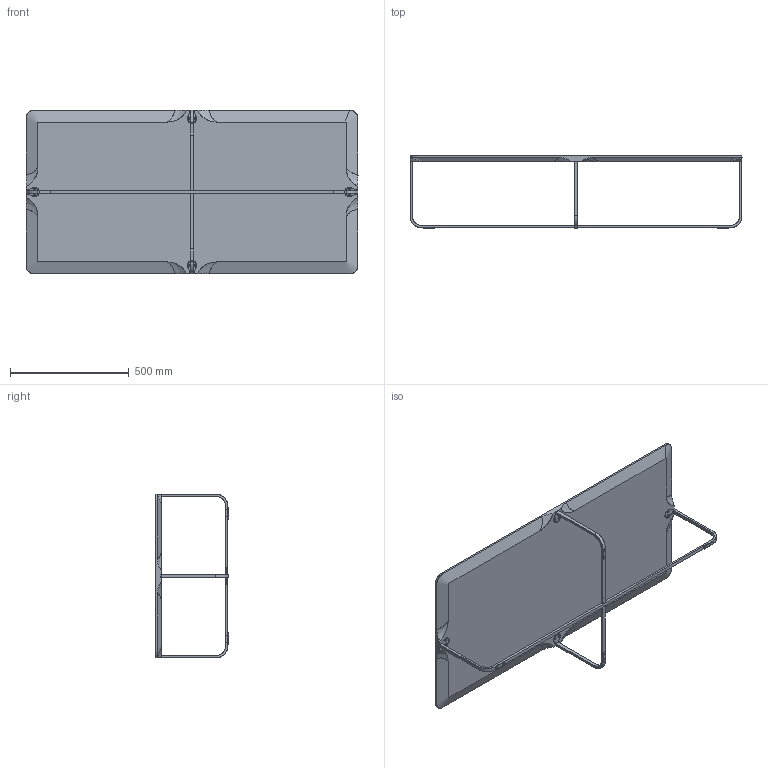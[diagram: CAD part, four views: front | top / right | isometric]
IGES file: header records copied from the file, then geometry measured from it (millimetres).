
Start section: SolidWorks IGES file using analytic representation for surfaces
Global section: file name: C:\Users\Kentie3D\Projecten\2013\1319 Montis verkoop info\Flint\3D\Flint tafel 1400x0690-300 rechthoek.IGS; native system: SolidWorks 2013; preprocessor: SolidWorks 2013; author: Kentie3D; date: 131212.154742; units: millimetre
Bounding box: 1400 x 308 x 690 mm (x, y, z)
Surface area: 2160017.1 mm2 (no closed solid volume)
Topology: 0 solids, 0 shells, 376 faces, 5368 edges, 5328 vertices
Faces by surface type: revolution 219, bspline 157
